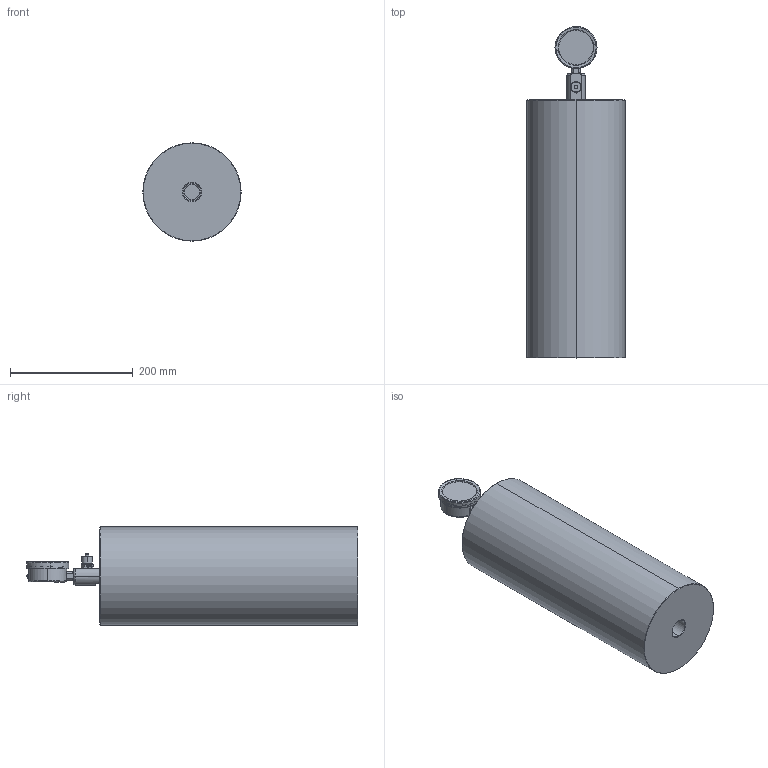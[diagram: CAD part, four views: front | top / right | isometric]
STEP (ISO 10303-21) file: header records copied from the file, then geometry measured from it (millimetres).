
FILE_DESCRIPTION (( 'STEP AP214' ), '1' );
FILE_NAME ('U040A01X1-PC (DGA).STEP', '2025-04-08T13:51:57', ( '' ), ( '' ), 'SwSTEP 2.0', 'SolidWorks 2024', '' );
FILE_SCHEMA (( 'AUTOMOTIVE_DESIGN' ));
Length unit declared in the file: millimetre
Products named in the file (1): U040A01X1-PC (DGA)
Bounding box: 160 x 540.4 x 160 mm (x, y, z)
Surface area: 317833.5 mm2 (no closed solid volume)
Topology: 0 solids, 18 shells, 818 faces, 2643 edges, 1786 vertices
Faces by surface type: plane 306, bspline 187, cylinder 186, cone 71, torus 58, sphere 10
Entity records: 61514 total; most frequent: CARTESIAN_POINT 31507, ORIENTED_EDGE 4490, DIRECTION 3626, EDGE_CURVE 2641, VERTEX_POINT 1786, VECTOR 1382, LINE 1382, AXIS2_PLACEMENT_3D 1122
